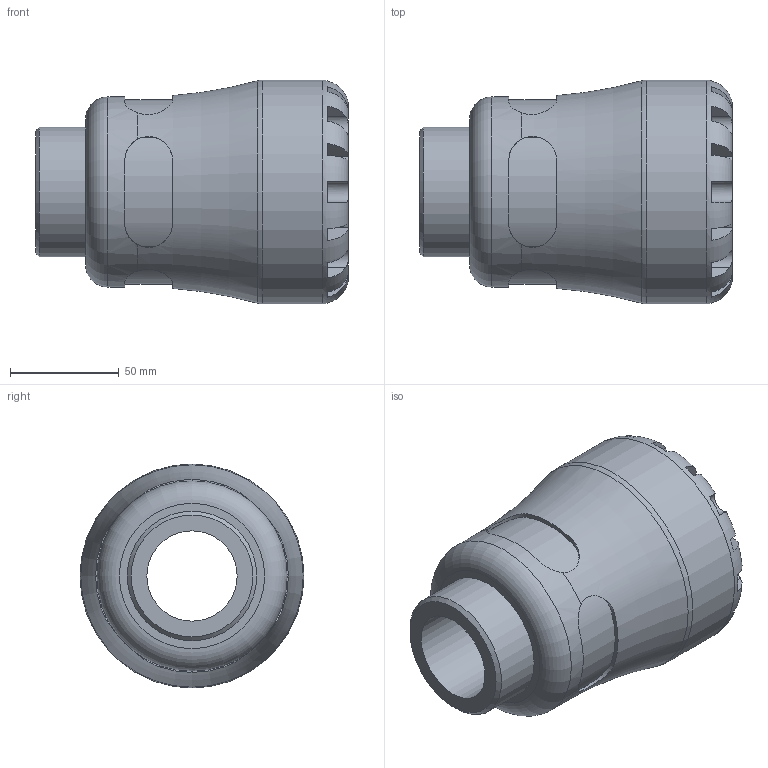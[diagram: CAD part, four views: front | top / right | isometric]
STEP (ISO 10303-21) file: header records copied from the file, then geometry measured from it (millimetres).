
FILE_DESCRIPTION(/* description */ ('PLASSON G-PLASS BRASS MALE ADAPTOR 63X2" SERIES 1'),/* implementation_level */ '2;1');
FILE_NAME(/* name */ 'C:\Users\Kirill\Dropbox\99-16-3568-Processing\S1\157200\stp\157200063020.stp',/* time_stamp */ '2023-10-21T23:02:52+04:00',/* author */ ('KIM'),/* organization */ (''),/* preprocessor_version */ 'ST-DEVELOPER v17.2',/* originating_system */ 'Autodesk Inventor 2019',/* authorisation */ '');
FILE_SCHEMA (('AUTOMOTIVE_DESIGN { 1 0 10303 214 3 1 1 }'));
Length unit declared in the file: millimetre
Products named in the file (1): 157200063020
Bounding box: 144 x 103 x 103 mm (x, y, z)
Volume: 531539.3 mm3; surface area: 77948.1 mm2
Topology: 1 solids, 1 shells, 107 faces, 293 edges, 190 vertices
Faces by surface type: plane 68, cylinder 33, torus 4, cone 2
Full cylindrical faces by diameter (mm): 41.614 x1, 59.614 x1, 63 x1, 87.55 x1, 103 x1
Entity records: 4341 total; most frequent: CARTESIAN_POINT 1543, ORIENTED_EDGE 586, DIRECTION 547, EDGE_CURVE 293, AXIS2_PLACEMENT_3D 226, VERTEX_POINT 190, CIRCLE 118, EDGE_LOOP 111
